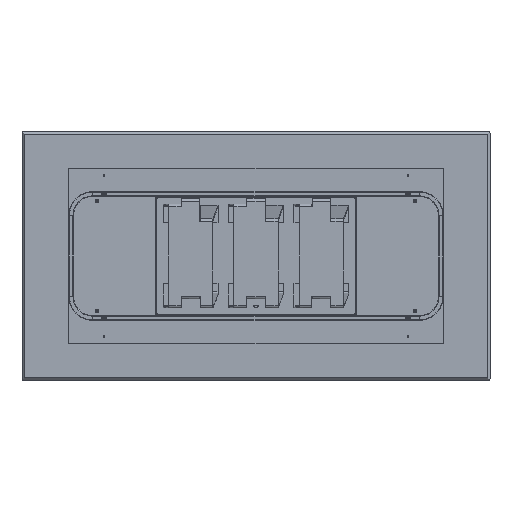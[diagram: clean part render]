
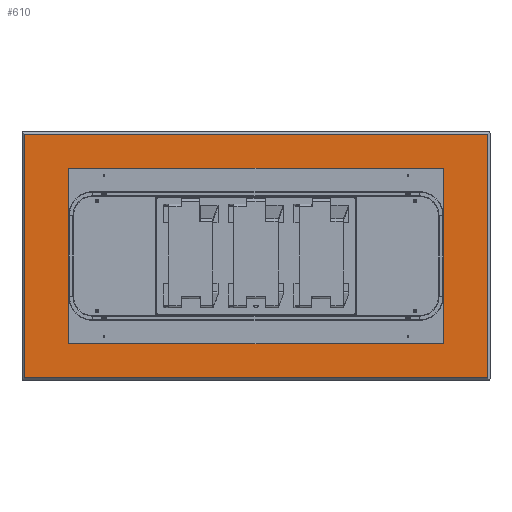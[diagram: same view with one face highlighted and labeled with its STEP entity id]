
A CAD part, front view. The second image highlights one B-rep face of the part: STEP entity #610.
In plain terms, the highlighted planar face has unit normal (0, -1, 0).
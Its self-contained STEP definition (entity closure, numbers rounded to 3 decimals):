
#71 = EDGE_CURVE ( 'NONE', #4184, #13974, #13431, .T. ) ;
#153 = EDGE_CURVE ( 'NONE', #5734, #12211, #3372, .T. ) ;
#350 = DIRECTION ( 'NONE',  ( 0., -1., 0. ) ) ;
#610 = ADVANCED_FACE ( 'NONE', ( #8524, #14709, #807, #7009, #13193 ), #1509, .F. ) ;
#667 = DIRECTION ( 'NONE',  ( 0., -1., 0. ) ) ;
#684 = VERTEX_POINT ( 'NONE', #9030 ) ;
#701 = CIRCLE ( 'NONE', #19185, 2.5 ) ;
#807 = FACE_BOUND ( 'NONE', #10979, .T. ) ;
#831 = AXIS2_PLACEMENT_3D ( 'NONE', #12305, #3167, #4689 ) ;
#1042 = CARTESIAN_POINT ( 'NONE',  ( -680., 0., -235. ) ) ;
#1428 = CARTESIAN_POINT ( 'NONE',  ( -680., 0., -232.5 ) ) ;
#1481 = CIRCLE ( 'NONE', #19311, 2.5 ) ;
#1509 = PLANE ( 'NONE',  #6961 ) ;
#1661 = CARTESIAN_POINT ( 'NONE',  ( 0., 0., -520. ) ) ;
#1961 = DIRECTION ( 'NONE',  ( 1., 0., 0. ) ) ;
#2541 = EDGE_CURVE ( 'NONE', #13974, #4184, #15793, .T. ) ;
#2565 = DIRECTION ( 'NONE',  ( 0., 0., -1. ) ) ;
#2723 = CARTESIAN_POINT ( 'NONE',  ( 0., 0., 520. ) ) ;
#2736 = EDGE_LOOP ( 'NONE', ( #13363, #12342, #15094, #18789 ) ) ;
#2787 = VERTEX_POINT ( 'NONE', #3084 ) ;
#2811 = VERTEX_POINT ( 'NONE', #9368 ) ;
#2821 = EDGE_CURVE ( 'NONE', #8042, #2811, #3283, .T. ) ;
#3084 = CARTESIAN_POINT ( 'NONE',  ( 990., 0., 520. ) ) ;
#3158 = EDGE_CURVE ( 'NONE', #2811, #2787, #4977, .T. ) ;
#3167 = DIRECTION ( 'NONE',  ( 0., -1., 0. ) ) ;
#3283 = LINE ( 'NONE', #1661, #19045 ) ;
#3372 = CIRCLE ( 'NONE', #10496, 2.5 ) ;
#3528 = ORIENTED_EDGE ( 'NONE', *, *, #11196, .F. ) ;
#3847 = ORIENTED_EDGE ( 'NONE', *, *, #16389, .F. ) ;
#4184 = VERTEX_POINT ( 'NONE', #8157 ) ;
#4680 = AXIS2_PLACEMENT_3D ( 'NONE', #8753, #350, #2565 ) ;
#4689 = DIRECTION ( 'NONE',  ( 0., 0., -1. ) ) ;
#4919 = ORIENTED_EDGE ( 'NONE', *, *, #15410, .F. ) ;
#4977 = LINE ( 'NONE', #18598, #13217 ) ;
#5158 = EDGE_LOOP ( 'NONE', ( #11995, #5277 ) ) ;
#5277 = ORIENTED_EDGE ( 'NONE', *, *, #2541, .F. ) ;
#5335 = VECTOR ( 'NONE', #5975, 1000. ) ;
#5545 = CARTESIAN_POINT ( 'NONE',  ( 680., 0., -235. ) ) ;
#5609 = DIRECTION ( 'NONE',  ( 0., -1., 0. ) ) ;
#5641 = CARTESIAN_POINT ( 'NONE',  ( 680., 0., -235. ) ) ;
#5734 = VERTEX_POINT ( 'NONE', #16512 ) ;
#5975 = DIRECTION ( 'NONE',  ( -1., 0., 0. ) ) ;
#6012 = LINE ( 'NONE', #15342, #17270 ) ;
#6241 = CARTESIAN_POINT ( 'NONE',  ( -990., 0., 520. ) ) ;
#6404 = VERTEX_POINT ( 'NONE', #19479 ) ;
#6491 = CARTESIAN_POINT ( 'NONE',  ( 680., 0., -232.5 ) ) ;
#6672 = CIRCLE ( 'NONE', #831, 2.5 ) ;
#6961 = AXIS2_PLACEMENT_3D ( 'NONE', #13692, #16750, #8928 ) ;
#7009 = FACE_BOUND ( 'NONE', #5158, .T. ) ;
#7368 = AXIS2_PLACEMENT_3D ( 'NONE', #13036, #19541, #8370 ) ;
#8042 = VERTEX_POINT ( 'NONE', #12818 ) ;
#8143 = VERTEX_POINT ( 'NONE', #6241 ) ;
#8157 = CARTESIAN_POINT ( 'NONE',  ( 680., 0., 232.5 ) ) ;
#8370 = DIRECTION ( 'NONE',  ( 0., 0., -1. ) ) ;
#8483 = DIRECTION ( 'NONE',  ( 0., 0., -1. ) ) ;
#8524 = FACE_BOUND ( 'NONE', #15463, .T. ) ;
#8576 = CIRCLE ( 'NONE', #15709, 2.5 ) ;
#8753 = CARTESIAN_POINT ( 'NONE',  ( 680., 0., 235. ) ) ;
#8928 = DIRECTION ( 'NONE',  ( 0., 0., 1. ) ) ;
#8967 = DIRECTION ( 'NONE',  ( 0., -1., 0. ) ) ;
#8984 = EDGE_CURVE ( 'NONE', #18395, #11056, #12661, .T. ) ;
#9030 = CARTESIAN_POINT ( 'NONE',  ( -680., 0., 232.5 ) ) ;
#9368 = CARTESIAN_POINT ( 'NONE',  ( 990., 0., -520. ) ) ;
#9464 = AXIS2_PLACEMENT_3D ( 'NONE', #5641, #667, #8483 ) ;
#10480 = DIRECTION ( 'NONE',  ( 0., 0., -1. ) ) ;
#10496 = AXIS2_PLACEMENT_3D ( 'NONE', #1042, #5609, #17988 ) ;
#10569 = ORIENTED_EDGE ( 'NONE', *, *, #8984, .F. ) ;
#10979 = EDGE_LOOP ( 'NONE', ( #3847, #4919 ) ) ;
#11056 = VERTEX_POINT ( 'NONE', #6491 ) ;
#11196 = EDGE_CURVE ( 'NONE', #11056, #18395, #701, .T. ) ;
#11995 = ORIENTED_EDGE ( 'NONE', *, *, #71, .F. ) ;
#12056 = LINE ( 'NONE', #2723, #5335 ) ;
#12211 = VERTEX_POINT ( 'NONE', #1428 ) ;
#12305 = CARTESIAN_POINT ( 'NONE',  ( -680., 0., 235. ) ) ;
#12342 = ORIENTED_EDGE ( 'NONE', *, *, #2821, .T. ) ;
#12661 = CIRCLE ( 'NONE', #9464, 2.5 ) ;
#12818 = CARTESIAN_POINT ( 'NONE',  ( -990., 0., -520. ) ) ;
#13036 = CARTESIAN_POINT ( 'NONE',  ( 680., 0., 235. ) ) ;
#13193 = FACE_OUTER_BOUND ( 'NONE', #2736, .T. ) ;
#13217 = VECTOR ( 'NONE', #15452, 1000. ) ;
#13357 = DIRECTION ( 'NONE',  ( 0., 0., -1. ) ) ;
#13363 = ORIENTED_EDGE ( 'NONE', *, *, #13399, .T. ) ;
#13385 = CARTESIAN_POINT ( 'NONE',  ( 680., 0., -237.5 ) ) ;
#13399 = EDGE_CURVE ( 'NONE', #8143, #8042, #6012, .T. ) ;
#13431 = CIRCLE ( 'NONE', #4680, 2.5 ) ;
#13692 = CARTESIAN_POINT ( 'NONE',  ( 0., 0., 0. ) ) ;
#13974 = VERTEX_POINT ( 'NONE', #17337 ) ;
#14709 = FACE_BOUND ( 'NONE', #15665, .T. ) ;
#15094 = ORIENTED_EDGE ( 'NONE', *, *, #3158, .T. ) ;
#15307 = DIRECTION ( 'NONE',  ( 0., 0., -1. ) ) ;
#15342 = CARTESIAN_POINT ( 'NONE',  ( -990., 0., 0. ) ) ;
#15410 = EDGE_CURVE ( 'NONE', #6404, #684, #8576, .T. ) ;
#15452 = DIRECTION ( 'NONE',  ( 0., 0., 1. ) ) ;
#15463 = EDGE_LOOP ( 'NONE', ( #10569, #3528 ) ) ;
#15467 = EDGE_CURVE ( 'NONE', #2787, #8143, #12056, .T. ) ;
#15665 = EDGE_LOOP ( 'NONE', ( #16196, #17445 ) ) ;
#15709 = AXIS2_PLACEMENT_3D ( 'NONE', #19576, #19781, #15307 ) ;
#15793 = CIRCLE ( 'NONE', #7368, 2.5 ) ;
#16196 = ORIENTED_EDGE ( 'NONE', *, *, #153, .F. ) ;
#16198 = EDGE_CURVE ( 'NONE', #12211, #5734, #1481, .T. ) ;
#16389 = EDGE_CURVE ( 'NONE', #684, #6404, #6672, .T. ) ;
#16512 = CARTESIAN_POINT ( 'NONE',  ( -680., 0., -237.5 ) ) ;
#16617 = DIRECTION ( 'NONE',  ( 0., -1., 0. ) ) ;
#16750 = DIRECTION ( 'NONE',  ( 0., 1., 0. ) ) ;
#17270 = VECTOR ( 'NONE', #18493, 1000. ) ;
#17337 = CARTESIAN_POINT ( 'NONE',  ( 680., 0., 237.5 ) ) ;
#17445 = ORIENTED_EDGE ( 'NONE', *, *, #16198, .F. ) ;
#17988 = DIRECTION ( 'NONE',  ( 0., 0., -1. ) ) ;
#18212 = CARTESIAN_POINT ( 'NONE',  ( -680., 0., -235. ) ) ;
#18395 = VERTEX_POINT ( 'NONE', #13385 ) ;
#18493 = DIRECTION ( 'NONE',  ( 0., 0., -1. ) ) ;
#18598 = CARTESIAN_POINT ( 'NONE',  ( 990., 0., 0. ) ) ;
#18789 = ORIENTED_EDGE ( 'NONE', *, *, #15467, .T. ) ;
#19045 = VECTOR ( 'NONE', #1961, 1000. ) ;
#19185 = AXIS2_PLACEMENT_3D ( 'NONE', #5545, #16617, #13357 ) ;
#19311 = AXIS2_PLACEMENT_3D ( 'NONE', #18212, #8967, #10480 ) ;
#19479 = CARTESIAN_POINT ( 'NONE',  ( -680., 0., 237.5 ) ) ;
#19541 = DIRECTION ( 'NONE',  ( 0., -1., 0. ) ) ;
#19576 = CARTESIAN_POINT ( 'NONE',  ( -680., 0., 235. ) ) ;
#19781 = DIRECTION ( 'NONE',  ( 0., -1., 0. ) ) ;
